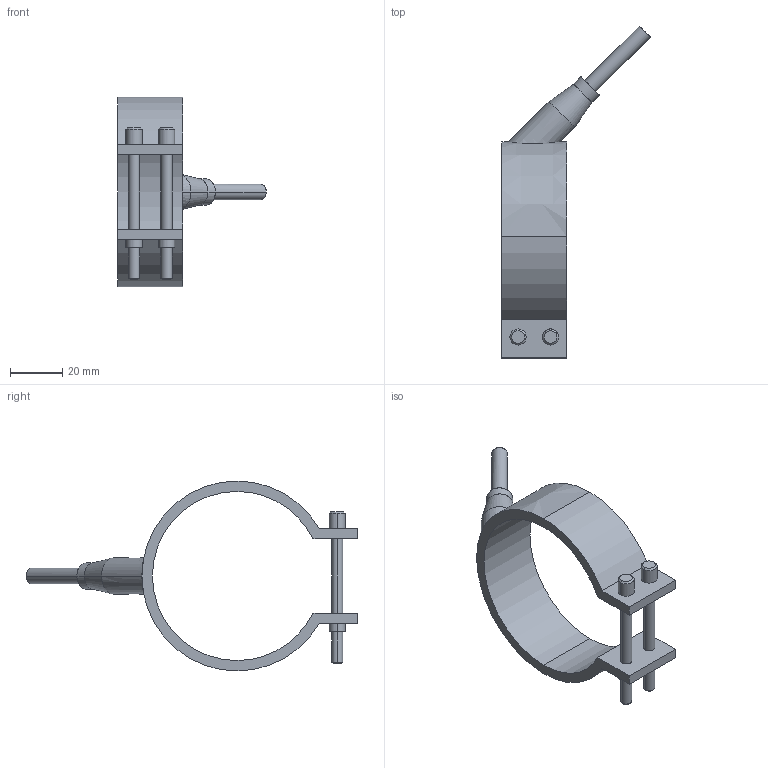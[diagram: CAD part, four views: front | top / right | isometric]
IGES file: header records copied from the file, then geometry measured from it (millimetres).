
Start section: START RECORD GO HERE.
Global section: file name: 29065025.igs; native system: DASSAULT SYSTEMES CATIA V5 R20 - www.3ds.com; preprocessor: CATIA Version 5 Release 20 ; author: Utente; organization: NB04-ASUS; date: 20210327.105125; units: millimetre
Bounding box: 57.05 x 127.55 x 73 mm (x, y, z)
Surface area: 15737 mm2 (no closed solid volume)
Topology: 0 solids, 0 shells, 54 faces, 252 edges, 252 vertices
Faces by surface type: revolution 38, plane 16
